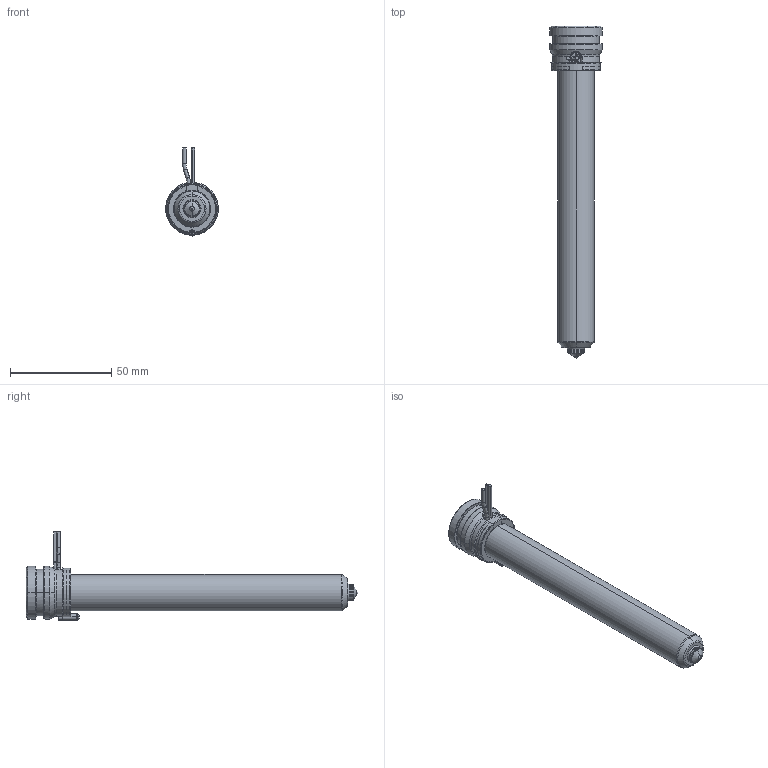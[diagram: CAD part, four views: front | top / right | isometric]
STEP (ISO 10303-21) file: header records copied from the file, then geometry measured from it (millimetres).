
FILE_DESCRIPTION((''),'2;1');
FILE_NAME('MPN-08-24-TS8-146-A','2026-02-05T11:53:18',('UPTIO'),('Thermoplay S.p.A.'),'CREO PARAMETRIC BY PTC INC, 2023494','CREO PARAMETRIC BY PTC INC, 2023494','');
FILE_SCHEMA(('CONFIG_CONTROL_DESIGN','SHAPE_APPEARANCE_LAYERS_GROUPS'));
Length unit declared in the file: millimetre
Products named in the file (1): MPN-08-24-TS8-146-A
Bounding box: 26 x 164 x 43.5 mm (x, y, z)
Volume: 31221.5 mm3; surface area: 40378.1 mm2
Topology: 2 solids, 5 shells, 548 faces, 1437 edges, 892 vertices
Faces by surface type: cylinder 178, plane 146, bspline 82, torus 64, cone 60, sphere 12, extrusion 6
Entity records: 29746 total; most frequent: CARTESIAN_POINT 13573, ORIENTED_EDGE 2854, DIRECTION 2539, EDGE_CURVE 1427, AXIS2_PLACEMENT_3D 992, VERTEX_POINT 892, EDGE_LOOP 575, VECTOR 555
